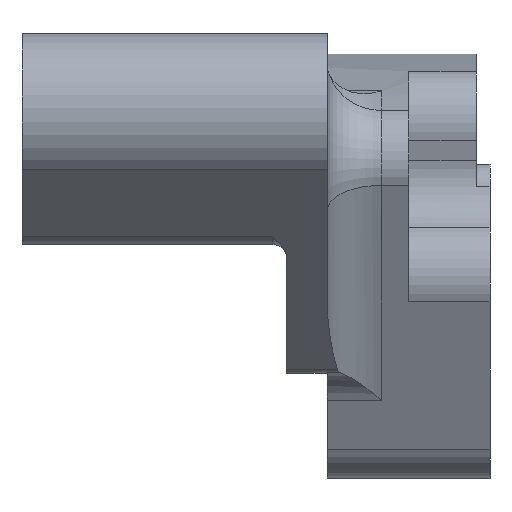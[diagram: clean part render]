
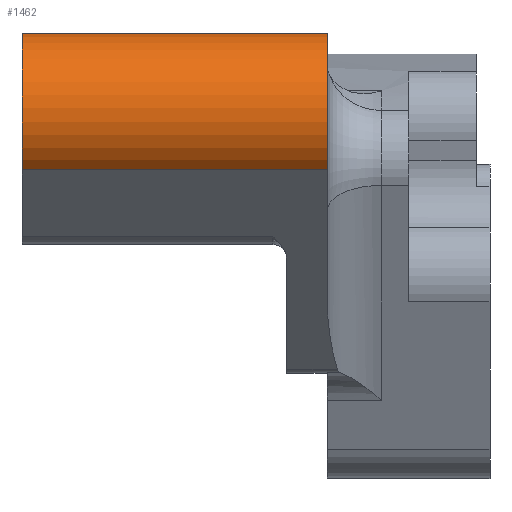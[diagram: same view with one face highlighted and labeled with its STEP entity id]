
A CAD part, front view. The second image highlights one B-rep face of the part: STEP entity #1462.
In plain terms, the highlighted cylindrical face has radius 5.873 mm (diameter 11.746 mm), a partial arc.
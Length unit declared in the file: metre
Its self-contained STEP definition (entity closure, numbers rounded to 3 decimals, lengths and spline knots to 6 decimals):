
#40=CYLINDRICAL_SURFACE('',#1582,0.005873);
#109=CIRCLE('',#1581,0.005873);
#110=CIRCLE('',#1583,0.005873);
#111=CIRCLE('',#1584,0.005873);
#112=CIRCLE('',#1585,0.005873);
#249=ORIENTED_EDGE('',*,*,#690,.T.);
#250=ORIENTED_EDGE('',*,*,#706,.T.);
#251=ORIENTED_EDGE('',*,*,#707,.T.);
#252=ORIENTED_EDGE('',*,*,#708,.F.);
#253=ORIENTED_EDGE('',*,*,#709,.F.);
#254=ORIENTED_EDGE('',*,*,#704,.T.);
#255=ORIENTED_EDGE('',*,*,#692,.T.);
#256=ORIENTED_EDGE('',*,*,#710,.T.);
#690=EDGE_CURVE('',#920,#919,#1052,.T.);
#692=EDGE_CURVE('',#915,#921,#1053,.T.);
#704=EDGE_CURVE('',#932,#915,#109,.T.);
#706=EDGE_CURVE('',#919,#933,#110,.F.);
#707=EDGE_CURVE('',#933,#934,#1059,.T.);
#708=EDGE_CURVE('',#935,#934,#111,.T.);
#709=EDGE_CURVE('',#932,#935,#1060,.T.);
#710=EDGE_CURVE('',#921,#920,#112,.F.);
#915=VERTEX_POINT('',#2315);
#919=VERTEX_POINT('',#2336);
#920=VERTEX_POINT('',#2338);
#921=VERTEX_POINT('',#2340);
#932=VERTEX_POINT('',#2379);
#933=VERTEX_POINT('',#2383);
#934=VERTEX_POINT('',#2385);
#935=VERTEX_POINT('',#2387);
#1052=LINE('',#2337,#1150);
#1053=LINE('',#2341,#1151);
#1059=LINE('',#2384,#1157);
#1060=LINE('',#2388,#1158);
#1150=VECTOR('',#1806,1.);
#1151=VECTOR('',#1809,1.);
#1157=VECTOR('',#1833,1.);
#1158=VECTOR('',#1836,1.);
#1248=EDGE_LOOP('',(#249,#250,#251,#252,#253,#254,#255,#256));
#1344=FACE_BOUND('',#1248,.T.);
#1462=ADVANCED_FACE('',(#1344),#40,.T.);
#1581=AXIS2_PLACEMENT_3D('',#2378,#1826,#1827);
#1582=AXIS2_PLACEMENT_3D('',#2381,#1829,#1830);
#1583=AXIS2_PLACEMENT_3D('',#2382,#1831,#1832);
#1584=AXIS2_PLACEMENT_3D('',#2386,#1834,#1835);
#1585=AXIS2_PLACEMENT_3D('',#2389,#1837,#1838);
#1806=DIRECTION('',(-1.,0.,0.));
#1809=DIRECTION('',(-1.,0.,0.));
#1826=DIRECTION('',(-1.,0.,0.));
#1827=DIRECTION('',(0.,0.,-1.));
#1829=DIRECTION('',(-1.,0.,0.));
#1830=DIRECTION('',(0.,0.,1.));
#1831=DIRECTION('',(1.,0.,0.));
#1832=DIRECTION('',(0.,0.,-1.));
#1833=DIRECTION('',(-1.,0.,0.));
#1834=DIRECTION('',(-1.,0.,0.));
#1835=DIRECTION('',(0.,0.,1.));
#1836=DIRECTION('',(-1.,0.,0.));
#1837=DIRECTION('',(1.,0.,0.));
#1838=DIRECTION('',(0.,0.,-1.));
#2315=CARTESIAN_POINT('',(0.1205,-0.026905,0.401986));
#2336=CARTESIAN_POINT('',(0.1165,-0.024896,0.4007));
#2337=CARTESIAN_POINT('',(0.1175,-0.024896,0.4007));
#2338=CARTESIAN_POINT('',(0.1175,-0.024896,0.4007));
#2340=CARTESIAN_POINT('',(0.1175,-0.026905,0.401986));
#2341=CARTESIAN_POINT('',(0.1205,-0.026905,0.401986));
#2378=CARTESIAN_POINT('',(0.1205,-0.029,0.3965));
#2379=CARTESIAN_POINT('',(0.1205,-0.033104,0.3923));
#2381=CARTESIAN_POINT('',(0.1205,-0.029,0.3965));
#2382=CARTESIAN_POINT('',(0.1165,-0.029,0.3965));
#2383=CARTESIAN_POINT('',(0.1165,-0.023203,0.395561));
#2384=CARTESIAN_POINT('',(0.117502,-0.023203,0.395561));
#2385=CARTESIAN_POINT('',(0.098,-0.023203,0.395561));
#2386=CARTESIAN_POINT('',(0.098,-0.029,0.3965));
#2387=CARTESIAN_POINT('',(0.098,-0.033104,0.3923));
#2388=CARTESIAN_POINT('',(0.1205,-0.033104,0.3923));
#2389=CARTESIAN_POINT('',(0.1175,-0.029,0.3965));
